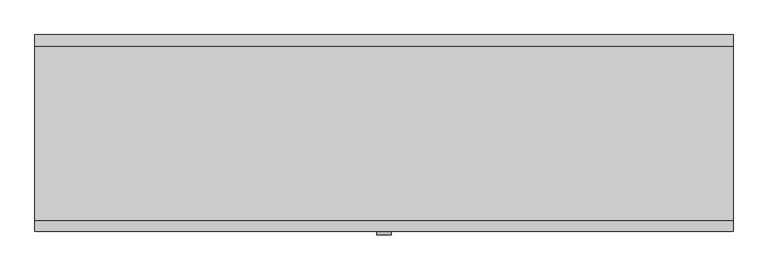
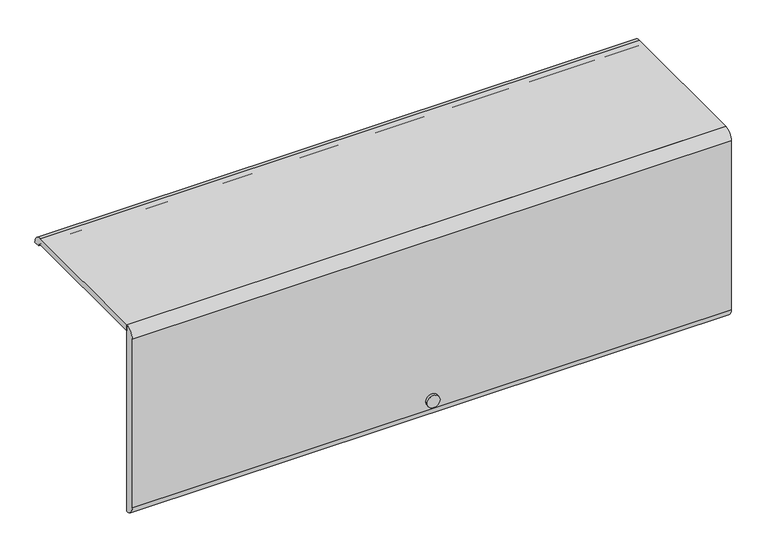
"""IFC4 building model written with IfcOpenShell, lengths in millimetres: furniture geometry, HermanMiller_ActionOffice_B-StyleFlipperDoor : Paint 15-1/2H x 13D x 48W."""

from ifc_helpers import new_model, si_unit, point, frame, frame_2d, origin, place, context, project, spatial, polyline, circle_curve, trimmed, segment, composite_curve, outline, extrude, source, transform, mapped, element, save


def furniture_ebb16344(model_context):
    return source(origin(), model_context, "Body", "SweptSolid", [
        extrude(outline(composite_curve([segment(polyline([(-136.525, 1562.1), (-136.525, 1574.8), (161.925, 1574.8)]), True, "CONTINUOUS"), segment(trimmed(circle_curve(frame_2d((161.925, 1555.75)), 19.05), [point((161.925, 1574.8))], [point((180.975, 1555.75))], False, "CARTESIAN"), True, "CONTINUOUS"), segment(polyline([(180.975, 1555.75), (168.275, 1555.75)]), True, "CONTINUOUS"), segment(trimmed(circle_curve(frame_2d((161.925, 1555.75)), 6.35), [point((168.275, 1555.75))], [point((161.925, 1562.1))], True, "CARTESIAN"), True, "CONTINUOUS"), segment(polyline([(161.925, 1562.1), (-136.525, 1562.1)]), True, "CONTINUOUS")], self_intersect=False)), frame((-596.9, 0.0, 0.0), z_axis=(1.0, 0.0, 0.0), x_axis=(0.0, 1.0, 0.0)), (0.0, 0.0, 1.0), 1193.8),
        extrude(outline(composite_curve([segment(trimmed(circle_curve(frame_2d((-136.525, 1555.75)), 19.05), [point((-155.575, 1555.75))], [point((-136.525, 1574.8))], False, "CARTESIAN"), True, "CONTINUOUS"), segment(polyline([(-136.525, 1574.8), (-136.525, 1181.1)]), True, "CONTINUOUS"), segment(trimmed(circle_curve(frame_2d((-136.525, 1200.15)), 19.05), [point((-136.525, 1181.1))], [point((-155.575, 1200.15))], False, "CARTESIAN"), True, "CONTINUOUS"), segment(polyline([(-155.575, 1200.15), (-155.575, 1555.75)]), True, "CONTINUOUS")], self_intersect=False)), frame((-596.9, 0.0, 0.0), z_axis=(1.0, 0.0, 0.0), x_axis=(0.0, 1.0, 0.0)), (0.0, 0.0, 1.0), 1193.8),
        extrude(outline(composite_curve([segment(trimmed(circle_curve(frame_2d((1219.1618906, 0.0201199)), 12.7253951), [point((1219.1618906, 12.745515))], [point((1219.1618906, -12.7052752))], False, "CARTESIAN"), True, "CONTINUOUS"), segment(trimmed(circle_curve(frame_2d((1219.1618906, 0.0201199)), 12.7253951), [point((1219.1618906, -12.7052752))], [point((1219.1618906, 12.745515))], False, "CARTESIAN"), True, "CONTINUOUS")], self_intersect=False)), frame((0.0, -161.925, 0.0), z_axis=(0.0, 1.0, 0.0), x_axis=(0.0, 0.0, 1.0)), (0.0, 0.0, 1.0), 6.35),
    ])


if __name__ == "__main__":
    model = new_model("IFC4")
    model_context = context("Model", 3, world=origin())
    ifc_project = project(units=[si_unit("LENGTHUNIT", "METRE", prefix="MILLI")], contexts=[model_context])
    site = spatial("IfcSite", under=ifc_project)
    building = spatial("IfcBuilding", under=site)
    placement = place(None, origin())
    furniture_shape = furniture_ebb16344(model_context)
    element("IfcFurniture", 1, ObjectType="HermanMiller_ActionOffice_B-StyleFlipperDoor : Paint 15-1/2H x 13D x 48W", at=placement, inside=building, context=model_context, shape_type="MappedRepresentation", body=[
        mapped(furniture_shape, transform((0.0, 0.0, 0.0), x_axis=(1.0, 0.0, 0.0), y_axis=(0.0, 1.0, 0.0), z_axis=(0.0, 0.0, 1.0))),
    ])
    save(model, "model.ifc")
